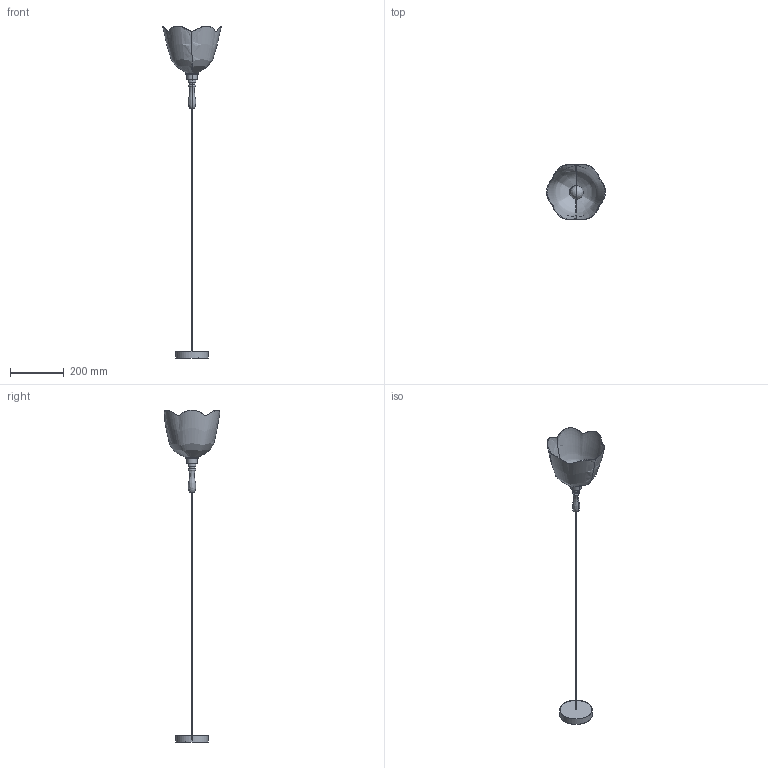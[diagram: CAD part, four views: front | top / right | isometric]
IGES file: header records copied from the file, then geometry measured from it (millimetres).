
Start section: SolidWorks IGES file using analytic representation for surfaces
Global section: file name: F:\燠隴矨\3D\2025-11\Marbre Stripe Pendant Light.IGS,15; native system: HSolidWorks 2022; preprocessor: SolidWorks 2022; author: MyPC; date: 251111.094705; units: millimetre
Bounding box: 217.76 x 206.61 x 1231.39 mm (x, y, z)
Surface area: 271227.6 mm2 (no closed solid volume)
Topology: 0 solids, 0 shells, 59 faces, 1104 edges, 1103 vertices
Faces by surface type: bspline 35, revolution 24
